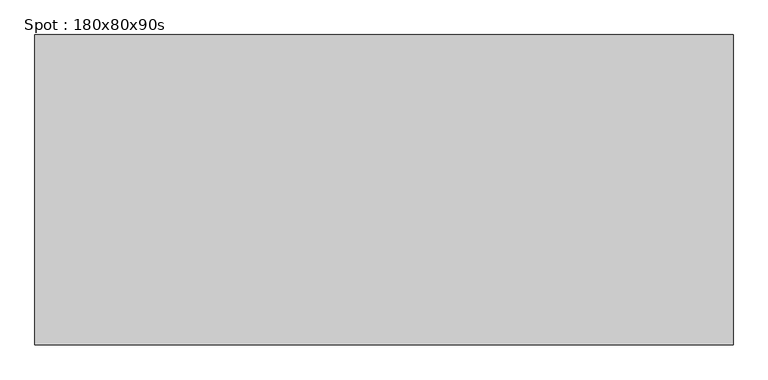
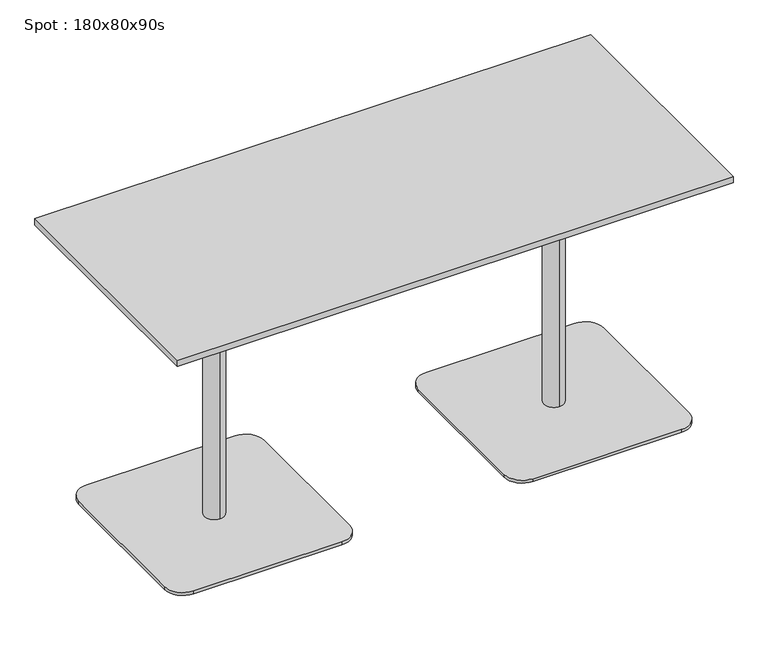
"""IFC4 building model written with IfcOpenShell, lengths in millimetres: furniture geometry, Spot : 180x80x90s."""

from ifc_helpers import new_model, si_unit, point, frame, frame_2d, origin, origin_with_axes, place, context, project, spatial, polyline, circle_curve, trimmed, segment, composite_curve, outline, extrude, source, transform, mapped, element, save
from ifc_brep_helpers import plane_surface, cylinder_surface, revolved_surface, advanced_brep


def spot_180x80x90s_55057bb6(model_context):
    return source(origin(), model_context, "Body", "SolidModel", [
        extrude(outline(polyline([(900.0, 400.0), (900.0, -400.0), (-900.0, -400.0), (-900.0, 400.0), (900.0, 400.0)])), frame((0.0, 0.0, 878.0), z_axis=(0.0, 0.0, 1.0), x_axis=(1.0, 0.0, 0.0)), (0.0, 0.0, 1.0), 22.0),
        extrude(outline(composite_curve([segment(trimmed(circle_curve(frame_2d((-310.0, 240.0)), 60.0), [point((-310.0, 300.0))], [point((-250.0, 240.0))], False, "CARTESIAN"), True, "CONTINUOUS"), segment(polyline([(-250.0, 240.0), (-250.0, -240.0)]), True, "CONTINUOUS"), segment(trimmed(circle_curve(frame_2d((-310.0, -240.0)), 60.0), [point((-250.0, -240.0))], [point((-310.0, -300.0))], False, "CARTESIAN"), True, "CONTINUOUS"), segment(polyline([(-310.0, -300.0), (-790.0, -300.0)]), True, "CONTINUOUS"), segment(trimmed(circle_curve(frame_2d((-790.0, -240.0)), 60.0), [point((-790.0, -300.0))], [point((-850.0, -240.0))], False, "CARTESIAN"), True, "CONTINUOUS"), segment(polyline([(-850.0, -240.0), (-850.0, 240.0)]), True, "CONTINUOUS"), segment(trimmed(circle_curve(frame_2d((-790.0, 240.0)), 60.0), [point((-850.0, 240.0))], [point((-790.0, 300.0))], False, "CARTESIAN"), True, "CONTINUOUS"), segment(polyline([(-790.0, 300.0), (-310.0, 300.0)]), True, "CONTINUOUS")], self_intersect=False)), origin_with_axes(), (0.0, 0.0, 1.0), 10.0),
        advanced_brep(
        [(-550.0, 32.0, 10.0), (-550.0, -32.0, 10.0), (-550.0, -32.0, 847.406916), (-550.0, 32.0, 847.406916), (-550.0, 0.0, 10.0), (-550.0, 150.0, 878.0), (-550.0, -150.0, 878.0), (-550.0, 0.0, 878.0), (-550.0, 150.0, 866.7213673), (-550.0, -150.0, 866.7213673)],
        [
            (0, 1, circle_curve(frame((-550.0, 0.0, 10.0), z_axis=(0.0, 0.0, 1.0), x_axis=(0.0, -1.0, 0.0)), 32.0)),
            (1, 2),
            (2, 3, circle_curve(frame((-550.0, 0.0, 847.406916), z_axis=(0.0, 0.0, -1.0), x_axis=(0.0, -1.0, 0.0)), 32.0)),
            (3, 0),
            (1, 0, circle_curve(frame((-550.0, 0.0, 10.0), z_axis=(0.0, 0.0, 1.0), x_axis=(0.0, -1.0, 0.0)), 32.0)),
            (3, 2, circle_curve(frame((-550.0, 0.0, 847.406916), z_axis=(0.0, 0.0, -1.0), x_axis=(0.0, -1.0, 0.0)), 32.0)),
            (4, 1),
            (0, 4),
            (5, 6, circle_curve(frame((-550.0, 0.0, 878.0), z_axis=(0.0, 0.0, 1.0), x_axis=(0.0, -1.0, 0.0)), 150.0)),
            (6, 7),
            (7, 5),
            (6, 5, circle_curve(frame((-550.0, 0.0, 878.0), z_axis=(0.0, 0.0, 1.0), x_axis=(0.0, -1.0, 0.0)), 150.0)),
            (8, 9, circle_curve(frame((-550.0, 0.0, 866.7213673), z_axis=(0.0, 0.0, 1.0), x_axis=(0.0, -1.0, 0.0)), 150.0)),
            (9, 6),
            (5, 8),
            (9, 8, circle_curve(frame((-550.0, 0.0, 866.7213673), z_axis=(0.0, 0.0, 1.0), x_axis=(0.0, -1.0, 0.0)), 150.0)),
            (2, 9),
            (8, 3),
        ],
        [
            cylinder_surface(frame((-550.0, 0.0, 1240.0), z_axis=(0.0, 0.0, -1.0), x_axis=(0.0, -1.0, 0.0)), 32.0),
            plane_surface(frame((-550.0, 0.0, 10.0), z_axis=(0.0, 0.0, -1.0), x_axis=(0.0, -1.0, 0.0))),
            plane_surface(frame((-550.0, 0.0, 878.0), z_axis=(0.0, 0.0, 1.0), x_axis=(0.0, -1.0, 0.0))),
            cylinder_surface(frame((-550.0, 0.0, 1240.0), z_axis=(0.0, 0.0, -1.0), x_axis=(0.0, -1.0, 0.0)), 150.0),
            revolved_surface(polyline([(-550.0, -150.0, 866.7213673), (-550.0, -32.0, 847.406916)]), (-550.0, 0.0, 1240.0), (0.0, 0.0, -1.0)),
        ],
        [
            (0, [[1, 2, 3, 4]]),
            (0, [[5, -4, 6, -2]]),
            (1, [[7, -1, 8]]),
            (1, [[-8, -5, -7]]),
            (2, [[9, 10, 11]]),
            (2, [[12, -11, -10]]),
            (3, [[13, 14, -9, 15]]),
            (3, [[16, -15, -12, -14]]),
            (4, [[-3, 17, -13, 18]]),
            (4, [[-6, -18, -16, -17]]),
        ],
    ),
        extrude(outline(polyline([(-550.0, 0.0), (-570.0, 0.0), (-570.0, 20.0), (-550.0, 20.0), (-550.0, 0.0)])), origin_with_axes(), (0.0, 0.0, 1.0), 10.0),
        extrude(outline(composite_curve([segment(trimmed(circle_curve(frame_2d((790.0, 240.0)), 60.0), [point((790.0, 300.0))], [point((850.0, 240.0))], False, "CARTESIAN"), True, "CONTINUOUS"), segment(polyline([(850.0, 240.0), (850.0, -240.0)]), True, "CONTINUOUS"), segment(trimmed(circle_curve(frame_2d((790.0, -240.0)), 60.0), [point((850.0, -240.0))], [point((790.0, -300.0))], False, "CARTESIAN"), True, "CONTINUOUS"), segment(polyline([(790.0, -300.0), (310.0, -300.0)]), True, "CONTINUOUS"), segment(trimmed(circle_curve(frame_2d((310.0, -240.0)), 60.0), [point((310.0, -300.0))], [point((250.0, -240.0))], False, "CARTESIAN"), True, "CONTINUOUS"), segment(polyline([(250.0, -240.0), (250.0, 240.0)]), True, "CONTINUOUS"), segment(trimmed(circle_curve(frame_2d((310.0, 240.0)), 60.0), [point((250.0, 240.0))], [point((310.0, 300.0))], False, "CARTESIAN"), True, "CONTINUOUS"), segment(polyline([(310.0, 300.0), (790.0, 300.0)]), True, "CONTINUOUS")], self_intersect=False)), origin_with_axes(), (0.0, 0.0, 1.0), 10.0),
        advanced_brep(
        [(550.0, 32.0, 10.0), (550.0, -32.0, 10.0), (550.0, -32.0, 847.406916), (550.0, 32.0, 847.406916), (550.0, 0.0, 10.0), (550.0, 150.0, 878.0), (550.0, -150.0, 878.0), (550.0, 0.0, 878.0), (550.0, 150.0, 866.7213673), (550.0, -150.0, 866.7213673)],
        [
            (0, 1, circle_curve(frame((550.0, 0.0, 10.0), z_axis=(0.0, 0.0, 1.0), x_axis=(0.0, -1.0, 0.0)), 32.0)),
            (1, 2),
            (2, 3, circle_curve(frame((550.0, 0.0, 847.406916), z_axis=(0.0, 0.0, -1.0), x_axis=(0.0, -1.0, 0.0)), 32.0)),
            (3, 0),
            (1, 0, circle_curve(frame((550.0, 0.0, 10.0), z_axis=(0.0, 0.0, 1.0), x_axis=(0.0, -1.0, 0.0)), 32.0)),
            (3, 2, circle_curve(frame((550.0, 0.0, 847.406916), z_axis=(0.0, 0.0, -1.0), x_axis=(0.0, -1.0, 0.0)), 32.0)),
            (4, 1),
            (0, 4),
            (5, 6, circle_curve(frame((550.0, 0.0, 878.0), z_axis=(0.0, 0.0, 1.0), x_axis=(0.0, -1.0, 0.0)), 150.0)),
            (6, 7),
            (7, 5),
            (6, 5, circle_curve(frame((550.0, 0.0, 878.0), z_axis=(0.0, 0.0, 1.0), x_axis=(0.0, -1.0, 0.0)), 150.0)),
            (8, 9, circle_curve(frame((550.0, 0.0, 866.7213673), z_axis=(0.0, 0.0, 1.0), x_axis=(0.0, -1.0, 0.0)), 150.0)),
            (9, 6),
            (5, 8),
            (9, 8, circle_curve(frame((550.0, 0.0, 866.7213673), z_axis=(0.0, 0.0, 1.0), x_axis=(0.0, -1.0, 0.0)), 150.0)),
            (2, 9),
            (8, 3),
        ],
        [
            cylinder_surface(frame((550.0, 0.0, 1240.0), z_axis=(0.0, 0.0, -1.0), x_axis=(0.0, -1.0, 0.0)), 32.0),
            plane_surface(frame((550.0, 0.0, 10.0), z_axis=(0.0, 0.0, -1.0), x_axis=(0.0, -1.0, 0.0))),
            plane_surface(frame((550.0, 0.0, 878.0), z_axis=(0.0, 0.0, 1.0), x_axis=(0.0, -1.0, 0.0))),
            cylinder_surface(frame((550.0, 0.0, 1240.0), z_axis=(0.0, 0.0, -1.0), x_axis=(0.0, -1.0, 0.0)), 150.0),
            revolved_surface(polyline([(550.0, -150.0, 866.7213673), (550.0, -32.0, 847.406916)]), (550.0, 0.0, 1240.0), (0.0, 0.0, -1.0)),
        ],
        [
            (0, [[1, 2, 3, 4]]),
            (0, [[5, -4, 6, -2]]),
            (1, [[7, -1, 8]]),
            (1, [[-8, -5, -7]]),
            (2, [[9, 10, 11]]),
            (2, [[12, -11, -10]]),
            (3, [[13, 14, -9, 15]]),
            (3, [[16, -15, -12, -14]]),
            (4, [[-3, 17, -13, 18]]),
            (4, [[-6, -18, -16, -17]]),
        ],
    ),
        extrude(outline(polyline([(550.0, 0.0), (530.0, 0.0), (530.0, 20.0), (550.0, 20.0), (550.0, 0.0)])), origin_with_axes(), (0.0, 0.0, 1.0), 10.0),
    ])


if __name__ == "__main__":
    model = new_model("IFC4")
    model_context = context("Model", 3, world=origin())
    ifc_project = project(units=[si_unit("LENGTHUNIT", "METRE", prefix="MILLI")], contexts=[model_context])
    site = spatial("IfcSite", under=ifc_project)
    building = spatial("IfcBuilding", under=site)
    placement = place(None, origin())
    spot_180x80x90s_shape = spot_180x80x90s_55057bb6(model_context)
    element("IfcFurniture", 1, ObjectType="Spot : 180x80x90s", at=placement, inside=building, context=model_context, shape_type="MappedRepresentation", body=[
        mapped(spot_180x80x90s_shape, transform((0.0, 0.0, 0.0), x_axis=(1.0, 0.0, 0.0), y_axis=(0.0, 1.0, 0.0), z_axis=(0.0, 0.0, 1.0))),
    ])
    save(model, "model.ifc")
